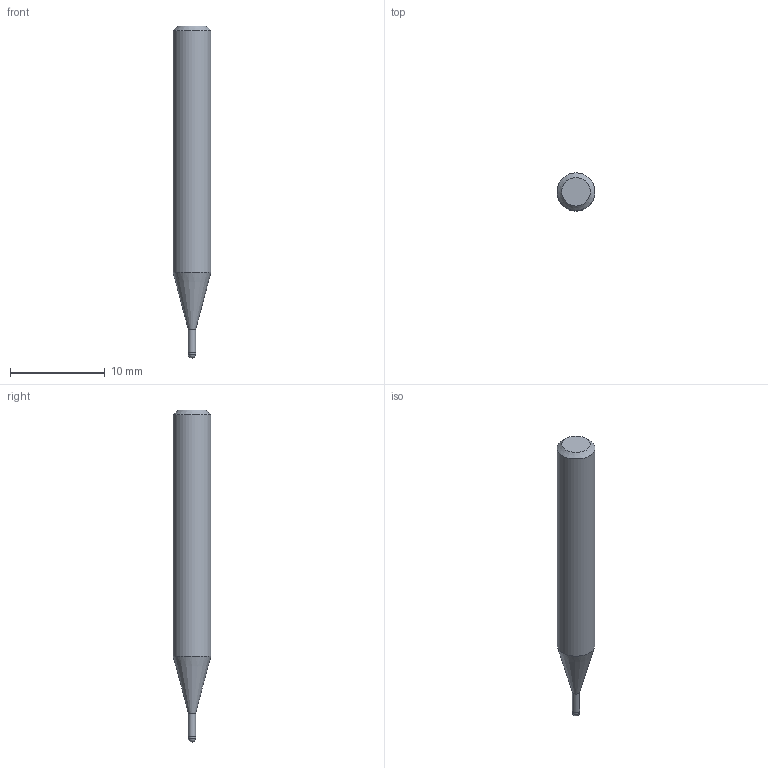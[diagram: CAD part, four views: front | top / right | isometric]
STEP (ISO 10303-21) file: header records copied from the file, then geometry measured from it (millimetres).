
FILE_DESCRIPTION((''),'2;1');
FILE_NAME('C:\Users\nsx150\AppData\Local\Temp\Mastercam 2021\QT8KEW0Y7J\TEMP.step','2021-04-23T11:20:58',(''),(''),'STEP Write','Mastercam 2021 ... CNC Software, Inc.','');
FILE_SCHEMA(('AUTOMOTIVE_DESIGN'));
Length unit declared in the file: millimetre
Products named in the file (1): None
Bounding box: 4 x 4 x 35 mm (x, y, z)
Volume: 357.1 mm3; surface area: 389.7 mm2
Topology: 2 solids, 2 shells, 9 faces, 14 edges, 8 vertices
Faces by surface type: plane 3, cylinder 3, cone 2, sphere 1
Full cylindrical faces by diameter (mm): 0.76 x1, 0.8 x1, 4 x1
Entity records: 211 total; most frequent: DIRECTION 36, CARTESIAN_POINT 25, AXIS2_PLACEMENT_3D 18, ORIENTED_EDGE 14, EDGE_LOOP 14, STYLED_ITEM 12, ADVANCED_FACE 9, FACE_BOUND 8
